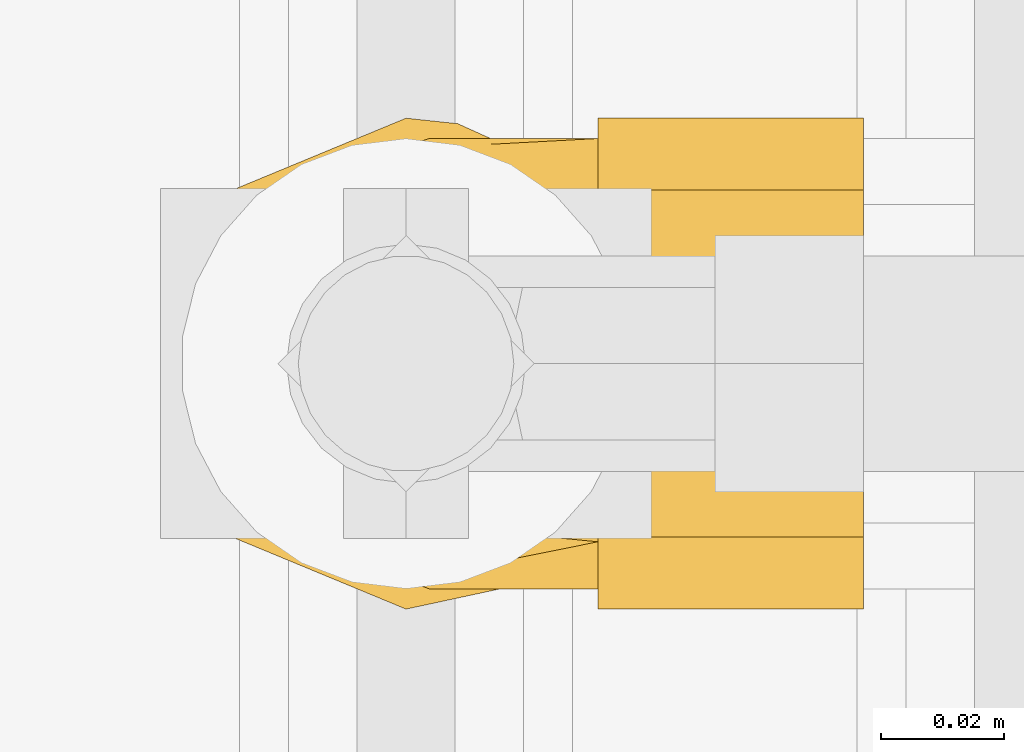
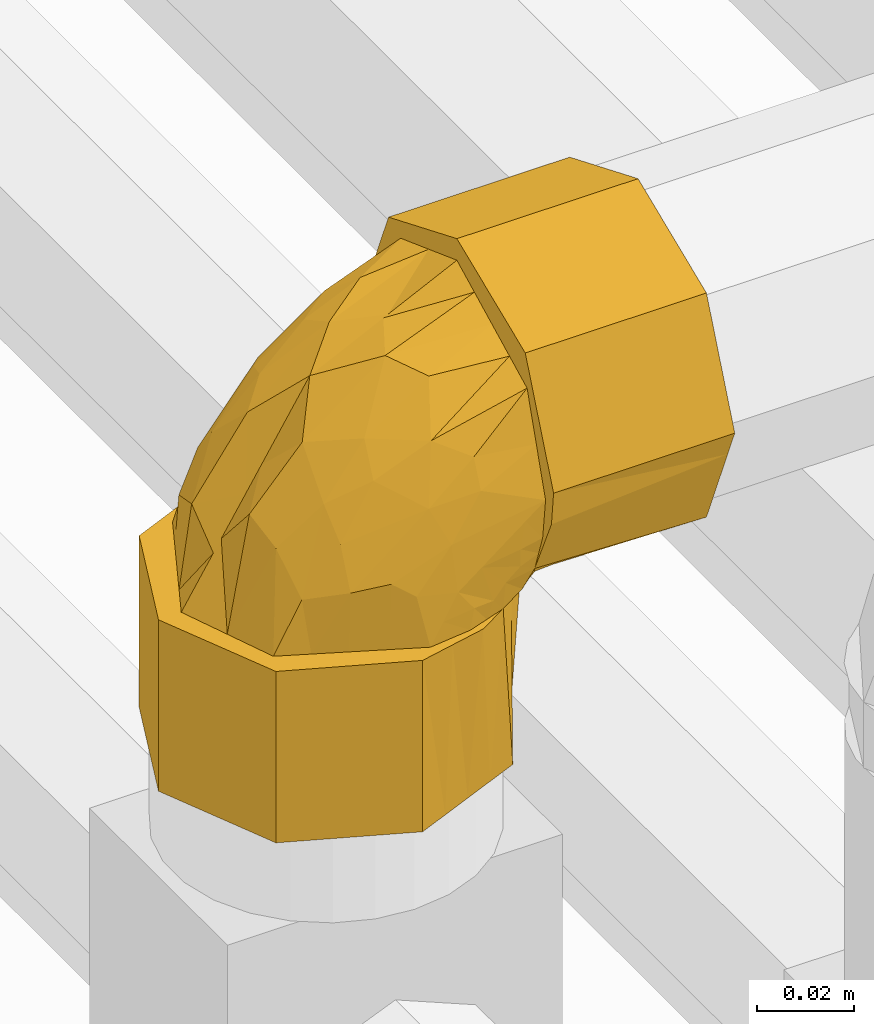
# One storey, part 147 of 652: 1 covering.
"""IFC2X3 building model written with IfcOpenShell, lengths in millimetres."""

from ifc_helpers import new_model, entity, si_unit, converted_unit, direction, frame, origin, place, context, subcontext, project, spatial, faceted_brep, material, type_object, element, save


model = new_model("IFC2X3")

# Units and contexts
model_context = context("Model", 3, precision=0.01, world=frame((0.0, 0.0, 308426.39999999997)), true_north=direction((6.123233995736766e-17, 1.0)))
plan_context = context("Plan", 3, precision=0.01, world=frame((0.0, 0.0, 308426.39999999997)), true_north=direction((6.123233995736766e-17, 1.0)))
body_context = subcontext(model_context, "Body", "Model", "MODEL_VIEW")
ifc_project = project(units=[si_unit("LENGTHUNIT", "METRE", prefix="MILLI"), si_unit("AREAUNIT", "SQUARE_METRE"), si_unit("VOLUMEUNIT", "CUBIC_METRE"), converted_unit("PLANEANGLEUNIT", "DEGREE", entity("IfcPlaneAngleMeasure", 0.017453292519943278), si_unit("PLANEANGLEUNIT", "RADIAN"), dimensions=[0, 0, 0, 0, 0, 0, 0])], contexts=[model_context, plan_context])

# Site, building, storey
site_placement = place(None, origin())
site = spatial("IfcSite", under=ifc_project, at=site_placement, Name="Default", CompositionType="ELEMENT")
building_placement = place(site_placement, origin())
building = spatial("IfcBuilding", under=site, at=building_placement, CompositionType="ELEMENT")
storey_placement = place(building_placement, frame((0.0, 0.0, 1730.6999999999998)))
storey = spatial("IfcBuildingStorey", under=building, at=storey_placement, Name="EG_Produktion_FFB", CompositionType="ELEMENT", Elevation=1730.6999999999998)

# Covering
ifc_material = material(Name="Dämmung - Armaflex-Schlauch")
covering_type = type_object("IfcCoveringType", Name="Rohrdämmung außen:Armaflex-Schlauch", PredefinedType="INSULATION")
covering_placement = place(storey_placement, frame((14948.646727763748, 59908.64672775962, 4275.915749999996)))
element("IfcCovering", 1, at=covering_placement, inside=storey, type_object=covering_type, material=ifc_material, Name="Rohrdämmung außen:Armaflex-Schlauch", ObjectType="Rohrdämmung außen:Armaflex-Schlauch", PredefinedType="INSULATION", context=body_context, shape_type="Brep", body=[
    faceted_brep([(55.293446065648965, 6.083537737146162, 43.00575000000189), (51.30566939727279, 5.617026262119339, 43.00575000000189), (45.09759303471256, 4.890772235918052, 43.00575000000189), (37.46172977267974, 8.3318644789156, 43.00575000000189), (29.82586651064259, 11.772956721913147, 43.00575000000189), (22.665040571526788, 14.99997398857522, 43.00575000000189), (15.504214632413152, 18.22699125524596, 43.00575000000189), (11.25323096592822, 29.790131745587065, 43.00575000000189), (7.002247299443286, 41.35327223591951, 43.00575000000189), (10.651622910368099, 48.56686113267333, 43.00575000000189), (14.300998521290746, 55.78045002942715, 43.00575000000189), (17.950374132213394, 62.994038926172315, 43.00575000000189), (21.599749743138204, 70.20762782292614, 43.00575000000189), (28.940491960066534, 72.58441730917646, 43.00575000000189), (37.01904249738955, 75.20009477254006, 43.00575000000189), (45.09759303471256, 77.81577223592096, 43.00575000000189), (51.305669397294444, 77.08951820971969, 43.00575000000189), (55.293446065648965, 76.62300673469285, 43.00575000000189), (60.12524249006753, 74.98470757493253, 43.00575000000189), (64.95703891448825, 73.34640841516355, 43.00575000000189), (57.33961263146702, 76.7834442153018, 43.00575000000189), (49.72218634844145, 80.22048001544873, 43.00575000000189), (41.35327223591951, 81.11127223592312, 43.00575000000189), (33.35750177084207, 77.7993156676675, 43.00575000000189), (27.29669653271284, 75.28884793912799, 43.00575000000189), (20.26840868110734, 72.37763579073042, 43.00575000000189), (13.240120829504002, 69.46642364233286, 43.00575000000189), (10.3289086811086, 62.43813579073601, 43.00575000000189), (7.417696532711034, 55.40984793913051, 43.00575000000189), (4.506484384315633, 48.38156008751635, 43.00575000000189), (1.5952722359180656, 41.35327223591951, 43.00575000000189), (4.907228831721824, 33.35750170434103, 43.00575000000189), (7.417696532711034, 27.296696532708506, 43.00575000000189), (10.3289086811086, 20.26840868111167, 43.00575000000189), (13.240120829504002, 13.240120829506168, 43.00575000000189), (20.26840868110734, 10.3289086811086, 43.00575000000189), (27.29669653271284, 7.417696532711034, 43.00575000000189), (33.357503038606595, 4.907228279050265, 43.00575000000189), (41.35327223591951, 1.5952722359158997, 43.00575000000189), (49.529246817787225, 3.3544466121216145, 43.00575000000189), (57.705221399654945, 5.113620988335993, 43.00575000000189), (64.95703891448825, 9.36013605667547, 43.00575000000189), (60.12524249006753, 7.721836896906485, 43.00575000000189), (69.46642364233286, 69.46642364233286, 0.0), (72.37763579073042, 62.43813579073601, 0.0), (75.28884793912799, 55.40984793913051, 0.0), (77.79931557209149, 49.349042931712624, 0.0), (81.11127223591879, 41.35327223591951, 0.0), (77.79931624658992, 33.357503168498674, 0.0), (75.28884793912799, 27.296696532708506, 0.0), (72.37763579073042, 20.268408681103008, 0.0), (69.46642364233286, 13.240120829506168, 0.0), (62.43813579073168, 10.3289086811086, 0.0), (55.40984793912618, 7.417696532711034, 0.0), (48.38156008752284, 4.506484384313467, 0.0), (41.35327223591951, 1.5952722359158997, 0.0), (34.324984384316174, 4.506484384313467, 0.0), (27.29669653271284, 7.417696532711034, 0.0), (20.26840868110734, 10.3289086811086, 0.0), (13.240120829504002, 13.240120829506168, 0.0), (10.328908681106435, 20.268408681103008, 0.0), (7.417696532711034, 27.296696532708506, 0.0), (4.506484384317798, 34.32498438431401, 0.0), (1.5952722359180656, 41.35327223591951, 0.0), (4.506484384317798, 48.38156008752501, 0.0), (7.417696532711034, 55.40984793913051, 0.0), (10.328908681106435, 62.43813579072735, 0.0), (13.240120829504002, 69.46642364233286, 0.0), (25.361730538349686, 74.48735878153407, 0.0), (33.3575013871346, 77.79931550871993, 0.0), (41.35327223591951, 81.11127223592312, 0.0), (48.38156008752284, 78.20006008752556, 0.0), (55.40984793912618, 75.28884793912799, 0.0), (62.43813579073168, 72.37763579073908, 0.0), (70.72483298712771, 66.6493605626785, 39.143139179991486), (81.11127223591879, 41.35327223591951, 32.887345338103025), (78.80194964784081, 50.65279247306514, 34.08393684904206), (76.492627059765, 59.952312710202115, 35.28052835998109), (77.64728835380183, 55.3025525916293, 34.682232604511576), (70.72483298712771, 16.057183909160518, 39.143139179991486), (78.80194964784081, 32.053751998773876, 34.08393684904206), (76.492627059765, 22.754231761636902, 35.28052835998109), (80.04136388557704, 37.04480775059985, 33.44172576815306), (72.4317722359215, 1.5952722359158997, 74.08425000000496), (72.4317722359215, 4.907228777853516, 82.08002040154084), (72.4317722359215, 7.417696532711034, 88.14082570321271), (72.4317722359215, 10.3289086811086, 95.16911355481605), (72.4317722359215, 13.240120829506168, 102.19740140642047), (72.4317722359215, 20.26840868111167, 105.10861355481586), (72.4317722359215, 27.296696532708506, 108.01982570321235), (72.4317722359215, 33.357503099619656, 110.53029398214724), (72.4317722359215, 41.35327223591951, 113.84225000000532), (72.4317722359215, 49.34904239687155, 110.53029355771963), (72.4317722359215, 55.40984793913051, 108.01982570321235), (72.4317722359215, 62.43813579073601, 105.10861355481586), (72.4317722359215, 69.46642364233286, 102.19740140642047), (72.4317722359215, 72.37763579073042, 95.16911355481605), (72.4317722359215, 75.28884793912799, 88.14082570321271), (72.4317722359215, 78.20006008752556, 81.11253785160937), (72.4317722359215, 81.11127223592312, 74.08425000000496), (72.4317722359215, 79.3520811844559, 65.90823846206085), (72.4317722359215, 77.59289013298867, 57.73222692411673), (72.4317722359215, 73.34640841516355, 50.48048332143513), (72.4317722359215, 74.98470757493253, 55.312279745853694), (72.4317722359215, 76.62300673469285, 60.1440761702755), (72.4317722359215, 77.08951812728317, 64.13185213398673), (72.4317722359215, 77.45264518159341, 67.2358906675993), (72.4317722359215, 77.81577223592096, 70.33992920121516), (72.4317722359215, 74.48171748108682, 77.73827380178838), (72.4317722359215, 71.14766272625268, 85.13661840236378), (72.4317722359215, 67.8136079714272, 92.53496300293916), (72.4317722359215, 64.47955321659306, 99.93330760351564), (72.4317722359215, 58.69798297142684, 102.05879943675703), (72.4317722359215, 52.91641272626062, 104.18429126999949), (72.4317722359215, 41.35327223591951, 108.43527493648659), (72.4317722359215, 34.139683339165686, 104.78589932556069), (72.4317722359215, 26.926094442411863, 101.13652371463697), (72.4317722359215, 19.712505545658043, 97.48714810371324), (72.4317722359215, 12.498916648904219, 93.83777249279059), (72.4317722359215, 10.596880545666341, 87.96331166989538), (72.4317722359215, 8.694844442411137, 82.08885084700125), (72.4317722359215, 4.890772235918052, 70.33992920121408), (72.4317722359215, 5.253899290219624, 67.2358906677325), (72.4317722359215, 5.617026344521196, 64.13185213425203), (72.4317722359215, 6.083537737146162, 60.1440761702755), (72.4317722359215, 7.721836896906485, 55.312279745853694), (72.4317722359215, 9.36013605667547, 50.48048332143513), (72.4317722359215, 5.923104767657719, 58.097888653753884), (72.4317722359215, 2.486073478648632, 65.71529398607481), (115.43752223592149, 78.20006008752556, 81.11253785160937), (115.43752223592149, 75.28884793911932, 88.14082570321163), (115.43752223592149, 72.37763579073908, 95.16911355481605), (115.43752223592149, 69.46642364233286, 102.19740140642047), (115.43752223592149, 57.34481362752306, 107.2183366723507), (115.43752223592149, 49.349042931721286, 110.530293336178), (115.43752223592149, 41.35327223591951, 113.84225000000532), (115.43752223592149, 34.32498438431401, 110.93103785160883), (115.43752223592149, 27.296696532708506, 108.01982570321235), (115.43752223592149, 20.268408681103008, 105.10861355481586), (115.43752223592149, 13.240120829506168, 102.19740140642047), (115.43752223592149, 10.3289086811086, 95.16911355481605), (115.43752223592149, 7.417696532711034, 88.14082570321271), (115.43752223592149, 4.506484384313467, 81.11253785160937), (115.43752223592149, 1.5952722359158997, 74.08425000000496), (115.43752223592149, 4.506484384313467, 67.05596214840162), (115.43752223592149, 7.417696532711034, 60.0276742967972), (115.43752223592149, 10.3289086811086, 52.99938644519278), (115.43752223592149, 13.240120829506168, 45.97109859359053), (115.43752223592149, 20.26840868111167, 43.059886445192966), (115.43752223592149, 27.296696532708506, 40.148674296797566), (115.43752223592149, 33.35750137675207, 37.63820673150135), (115.43752223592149, 41.35327223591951, 34.32625000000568), (115.43752223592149, 49.34904132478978, 37.63820599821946), (115.43752223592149, 55.409847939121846, 40.148674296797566), (115.43752223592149, 62.43813579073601, 43.059886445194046), (115.43752223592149, 69.46642364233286, 45.97109859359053), (115.43752223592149, 72.37763579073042, 52.99938644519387), (115.43752223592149, 75.28884793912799, 60.0276742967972), (115.43752223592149, 77.7993155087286, 66.08847915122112), (115.43752223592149, 81.11127223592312, 74.08425000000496), (82.55017689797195, 41.35327223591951, 34.32625000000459), (81.35358538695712, 50.65279247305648, 36.63557258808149), (80.15699387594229, 59.95231271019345, 38.94489517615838), (81.4414160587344, 49.97020104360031, 36.46606666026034), (76.29438305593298, 66.6493605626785, 44.71268924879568), (76.29438305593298, 16.057183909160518, 44.71268924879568), (81.35358538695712, 32.05375199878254, 36.63557258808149), (80.15699387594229, 22.754231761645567, 38.94489517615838), (81.44141605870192, 32.736343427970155, 36.46606666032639), (81.99579647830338, 37.04480783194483, 35.39615833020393), (57.27953829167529, 70.58570371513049, 87.2456310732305), (29.196562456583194, 70.84194655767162, 59.25537915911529), (39.99677644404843, 74.32849001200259, 64.78568226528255), (51.665813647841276, 77.81577223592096, 54.4446182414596), (44.42764397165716, 77.00211431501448, 57.536839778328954), (55.10574679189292, 76.88844933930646, 69.5406056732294), (40.74800020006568, 68.42603953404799, 78.61273076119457), (24.869749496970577, 65.42597622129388, 63.63300022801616), (37.51558616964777, 41.35327223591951, 91.6990994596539), (46.8022907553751, 49.423246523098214, 97.09379966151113), (27.559756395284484, 49.76955400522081, 80.92903244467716), (14.630582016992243, 41.35327223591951, 55.179087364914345), (14.918451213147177, 50.78343827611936, 61.713557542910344), (36.22638004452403, 62.18567496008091, 81.91063946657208), (70.04816151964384, 77.81577223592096, 68.51539346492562), (67.66455080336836, 77.81577223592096, 66.69085772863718), (62.89732937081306, 77.81577223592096, 63.04178625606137), (57.28157150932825, 77.81577223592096, 58.74320224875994), (54.940238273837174, 65.52092940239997, 92.24225345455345), (24.562664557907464, 59.20806438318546, 71.24210235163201), (17.335133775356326, 60.22410783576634, 57.4092345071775), (45.839036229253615, 58.19488232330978, 92.66510975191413), (33.94124595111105, 55.853767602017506, 84.60868936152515), (54.97367920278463, 41.35327223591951, 100.06718719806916), (56.13067021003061, 41.35327223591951, 100.62176107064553), (22.25891673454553, 41.35327223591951, 67.35242472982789), (25.996342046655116, 41.35327223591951, 73.31662804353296), (29.88725145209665, 41.35327223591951, 79.52576209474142), (57.7545777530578, 55.751720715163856, 100.49812847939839), (53.084365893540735, 73.79715375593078, 78.60346314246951), (16.499294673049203, 41.35327223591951, 58.16118902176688), (48.11331321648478, 77.81577223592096, 48.25776996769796), (55.88980313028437, 77.16648559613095, 48.61142237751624), (61.14799943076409, 75.95462844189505, 47.90470472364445), (81.80380630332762, 41.35327223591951, 33.63371593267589), (63.9783660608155, 76.0357200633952, 51.45915668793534), (70.52863846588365, 71.49570768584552, 44.90888347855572), (67.53281820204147, 75.95462822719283, 54.28952252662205), (66.92088050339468, 77.15152320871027, 59.51870107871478), (55.889803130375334, 5.540058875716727, 48.61142237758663), (48.11331321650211, 4.890772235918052, 48.2577699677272), (70.52863882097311, 11.210837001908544, 44.90888338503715), (63.97836681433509, 6.670824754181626, 51.459155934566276), (61.1479994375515, 6.7519160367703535, 47.904704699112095), (57.28157150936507, 4.890772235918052, 58.74320224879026), (67.53281822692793, 6.7519162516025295, 54.289522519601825), (66.92088050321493, 5.555021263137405, 59.518701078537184), (67.66455080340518, 4.890772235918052, 66.69085772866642), (51.665813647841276, 4.890772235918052, 54.4446182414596), (70.04816151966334, 4.890772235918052, 68.5153934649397), (62.89732937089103, 4.890772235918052, 63.04178625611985), (37.54867793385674, 7.90055709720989, 59.61186262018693), (29.753616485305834, 11.144292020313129, 58.147927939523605), (58.23539538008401, 6.907352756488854, 76.41301603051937), (30.21968406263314, 31.821832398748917, 83.37405497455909), (38.437885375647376, 16.763579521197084, 79.8709100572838), (47.15067212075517, 9.117077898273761, 74.44381850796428), (50.85120006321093, 14.598856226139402, 86.90253298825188), (50.713049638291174, 5.892051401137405, 66.09863101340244), (42.39813250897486, 5.886693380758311, 55.98858201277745), (29.782072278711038, 15.338625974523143, 67.8102620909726), (39.60413641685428, 22.521459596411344, 86.6462536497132), (49.78456672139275, 31.617498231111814, 98.3527899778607), (54.98610161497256, 22.69544496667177, 96.79734628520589), (58.13081411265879, 9.61944594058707, 83.33506495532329), (19.784818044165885, 24.56861790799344, 64.80279365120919), (29.10701456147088, 21.067876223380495, 74.76137203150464), (21.41890155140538, 16.734184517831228, 55.995243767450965), (18.405512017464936, 33.08278710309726, 68.64794002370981)], [[[0, 1, 2, 3, 4, 5, 6, 7, 8, 9, 10, 11, 12, 13, 14, 15, 16, 17, 18, 19, 20, 21, 22, 23, 24, 25, 26, 27, 28, 29, 30, 31, 32, 33, 34, 35, 36, 37, 38, 39, 40, 41, 42]], [[43, 44, 45, 46, 47, 48, 49, 50, 51, 52, 53, 54, 55, 56, 57, 58, 59, 60, 61, 62, 63, 64, 65, 66, 67, 68, 69, 70, 71, 72, 73]], [[44, 43, 74]], [[75, 47, 46]], [[76, 75, 46]], [[45, 77, 78, 76]], [[44, 74, 77]], [[72, 20, 73]], [[71, 21, 72]], [[43, 19, 74]], [[77, 45, 44]], [[72, 21, 20]], [[71, 22, 21]], [[45, 76, 46]], [[71, 70, 22]], [[73, 20, 19]], [[19, 43, 73]], [[23, 22, 70, 69, 68, 67, 26, 25, 24]], [[26, 67, 66, 65, 64, 63, 30, 29, 28, 27]], [[38, 37, 36, 35, 34, 59, 58, 57, 56, 55]], [[30, 63, 62, 61, 60, 59, 34, 33, 32, 31]], [[53, 40, 39]], [[50, 79, 51]], [[39, 54, 53]], [[41, 52, 51]], [[40, 52, 41]], [[80, 49, 48]], [[49, 80, 81]], [[55, 54, 38]], [[48, 75, 82, 80]], [[38, 54, 39]], [[79, 50, 81]], [[52, 40, 53]], [[48, 47, 75]], [[50, 49, 81]], [[79, 41, 51]], [[83, 84, 85, 86, 87, 88, 89, 90, 91, 92, 93, 94, 95, 96, 97, 98, 99, 100, 101, 102, 103, 104, 105, 106, 107, 108, 109, 110, 111, 112, 113, 114, 115, 116, 117, 118, 119, 120, 121, 122, 123, 124, 125, 126, 127, 128]], [[129, 130, 131, 132, 133, 134, 135, 136, 137, 138, 139, 140, 141, 142, 143, 144, 145, 146, 147, 148, 149, 150, 151, 152, 153, 154, 155, 156, 157, 158, 159]], [[135, 134, 133, 132, 95, 94, 93, 92, 91]], [[95, 132, 131, 130, 129, 159, 99, 98, 97, 96]], [[159, 158, 157, 100]], [[101, 156, 102]], [[99, 159, 100]], [[101, 100, 157]], [[152, 151, 160]], [[102, 156, 155]], [[153, 161, 162]], [[161, 153, 152]], [[152, 160, 163, 161]], [[154, 164, 155]], [[164, 154, 162]], [[156, 101, 157]], [[154, 153, 162]], [[164, 102, 155]], [[148, 147, 165]], [[149, 166, 150]], [[166, 149, 167]], [[160, 151, 150]], [[148, 165, 167]], [[145, 127, 146]], [[144, 128, 145]], [[147, 126, 165]], [[167, 149, 148]], [[145, 128, 127]], [[144, 83, 128]], [[150, 166, 168, 169, 160]], [[144, 143, 83]], [[146, 127, 126]], [[126, 147, 146]], [[91, 90, 89, 88, 87, 139, 138, 137, 136, 135]], [[141, 140, 139, 87, 86, 85, 84, 83, 143, 142]], [[109, 170, 110]], [[13, 171, 172]], [[14, 13, 172]], [[173, 174, 175]], [[176, 171, 177]], [[15, 14, 174]], [[178, 179, 180]], [[9, 181, 182]], [[172, 175, 174]], [[13, 12, 171]], [[12, 11, 177]], [[176, 177, 183]], [[175, 107, 184, 185, 186, 187, 173]], [[188, 170, 176]], [[176, 172, 171]], [[189, 190, 182]], [[11, 10, 190]], [[177, 11, 190]], [[170, 188, 110]], [[191, 183, 192]], [[179, 178, 193, 194]], [[182, 190, 10]], [[182, 195, 180]], [[177, 190, 189]], [[182, 10, 9]], [[180, 195, 196, 197, 178]], [[177, 189, 183]], [[177, 171, 12]], [[113, 179, 194]], [[189, 182, 180]], [[112, 111, 198, 113]], [[198, 111, 188]], [[194, 114, 113]], [[179, 191, 192]], [[199, 175, 172]], [[199, 108, 175]], [[172, 176, 199]], [[188, 111, 110]], [[199, 170, 109]], [[183, 188, 176]], [[108, 199, 109]], [[188, 191, 198]], [[108, 107, 175]], [[176, 170, 199]], [[192, 189, 180]], [[188, 183, 191]], [[189, 192, 183]], [[179, 192, 180]], [[181, 9, 8]], [[182, 181, 200, 195]], [[191, 179, 198]], [[179, 113, 198]], [[174, 173, 201, 15]], [[172, 174, 14]], [[173, 202, 201]], [[173, 187, 203]], [[18, 203, 19]], [[201, 17, 16, 15]], [[204, 76, 163]], [[74, 164, 162, 77]], [[163, 76, 78, 77, 162, 161]], [[205, 102, 206]], [[206, 164, 74]], [[106, 105, 104, 185, 184, 107]], [[205, 207, 102]], [[186, 185, 208, 187]], [[204, 75, 76]], [[163, 160, 204]], [[205, 206, 19]], [[164, 206, 102]], [[203, 205, 19]], [[19, 206, 74]], [[201, 202, 17]], [[17, 202, 18]], [[203, 202, 173]], [[18, 202, 203]], [[102, 207, 103]], [[103, 208, 104]], [[207, 205, 187]], [[208, 103, 207]], [[208, 185, 104]], [[187, 208, 207]], [[203, 187, 205]], [[204, 160, 169]], [[209, 210, 0]], [[169, 168, 166, 167, 81, 80, 82]], [[41, 211, 212]], [[1, 0, 210, 2]], [[213, 212, 214]], [[204, 169, 82]], [[79, 165, 211]], [[126, 125, 215]], [[212, 211, 126]], [[204, 82, 75]], [[167, 165, 79, 81]], [[216, 124, 217]], [[218, 209, 213]], [[122, 121, 219, 217, 124, 123]], [[41, 79, 211]], [[211, 165, 126]], [[209, 0, 42]], [[125, 124, 216]], [[126, 215, 212]], [[125, 216, 215]], [[220, 214, 216, 217]], [[213, 42, 41]], [[212, 213, 41]], [[210, 209, 218]], [[214, 212, 215]], [[209, 42, 213]], [[215, 216, 214]], [[218, 213, 214]], [[4, 221, 222]], [[223, 121, 120]], [[224, 178, 197, 196]], [[225, 226, 227]], [[228, 226, 221]], [[229, 218, 228]], [[222, 226, 230]], [[231, 232, 224]], [[3, 229, 221]], [[233, 232, 231]], [[234, 223, 120]], [[229, 2, 210, 218]], [[224, 235, 236]], [[4, 3, 221]], [[228, 218, 214, 220, 217, 219, 121]], [[237, 222, 230]], [[6, 235, 7]], [[235, 6, 237]], [[238, 200, 7]], [[228, 223, 226]], [[224, 238, 235]], [[234, 226, 223]], [[227, 117, 233]], [[193, 232, 115]], [[224, 232, 178]], [[115, 114, 194, 193]], [[235, 237, 236]], [[238, 224, 196]], [[226, 222, 221]], [[222, 237, 5]], [[5, 237, 6]], [[5, 4, 222]], [[237, 230, 236]], [[7, 200, 181, 8]], [[7, 235, 238]], [[238, 196, 195, 200]], [[227, 118, 117]], [[193, 178, 232]], [[231, 236, 225]], [[233, 117, 116]], [[232, 233, 116]], [[227, 233, 231]], [[229, 3, 2]], [[228, 221, 229]], [[121, 223, 228]], [[119, 118, 234, 120]], [[234, 118, 227]], [[227, 226, 234]], [[232, 116, 115]], [[225, 236, 230]], [[224, 236, 231]], [[226, 225, 230]], [[231, 225, 227]]]),
])

save(model, "model.ifc")
